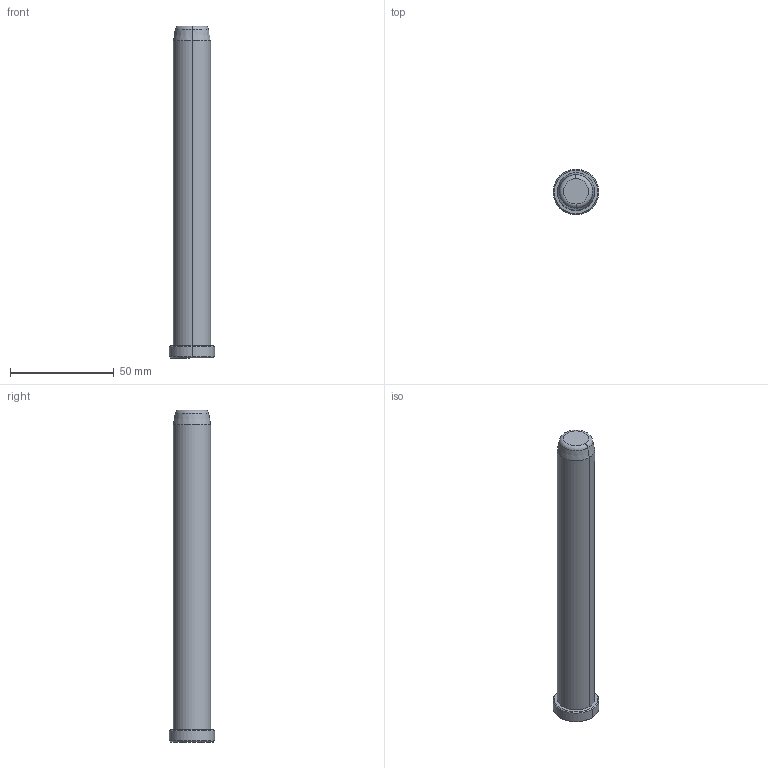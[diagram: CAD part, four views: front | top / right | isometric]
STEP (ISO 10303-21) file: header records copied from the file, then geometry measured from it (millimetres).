
FILE_DESCRIPTION((''),'2;1');
FILE_NAME('B81818160','2018-01-06T',('MANU'),(''),'PRO/ENGINEER BY PARAMETRIC TECHNOLOGY CORPORATION, 2012130','PRO/ENGINEER BY PARAMETRIC TECHNOLOGY CORPORATION, 2012130','');
FILE_SCHEMA(('CONFIG_CONTROL_DESIGN'));
Length unit declared in the file: millimetre
Products named in the file (1): B81818160
Bounding box: 22 x 22 x 160 mm (x, y, z)
Volume: 41192.4 mm3; surface area: 9727 mm2
Topology: 1 solids, 1 shells, 15 faces, 28 edges, 16 vertices
Faces by surface type: cone 6, cylinder 4, plane 3, torus 2
Entity records: 414 total; most frequent: DIRECTION 76, CARTESIAN_POINT 59, ORIENTED_EDGE 56, AXIS2_PLACEMENT_3D 33, EDGE_CURVE 28, CIRCLE 18, VERTEX_POINT 16, EDGE_LOOP 16
